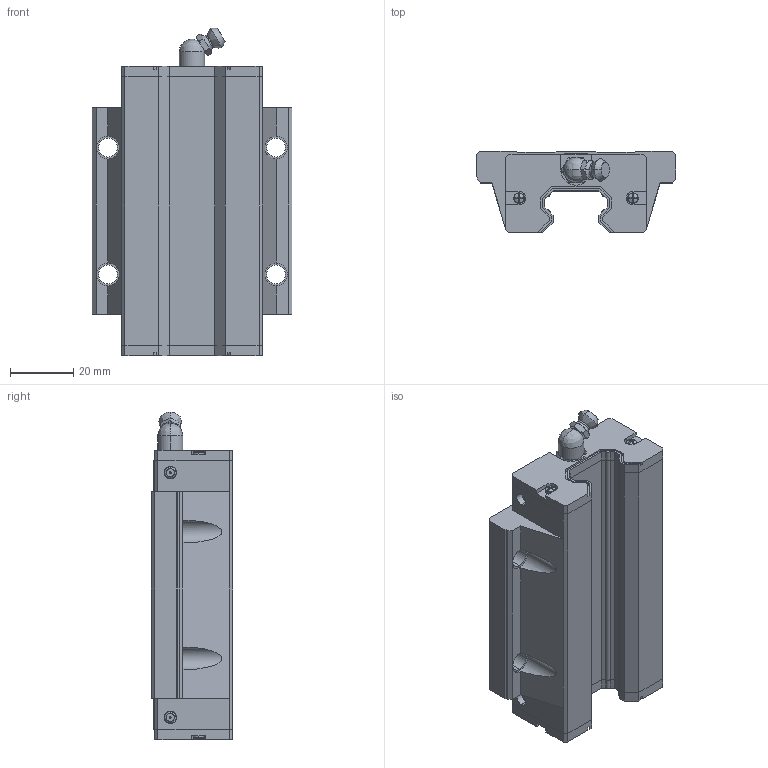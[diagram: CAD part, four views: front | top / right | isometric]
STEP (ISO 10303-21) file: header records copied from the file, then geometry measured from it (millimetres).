
FILE_DESCRIPTION (( 'STEP AP203' ), '1' );
FILE_NAME ('HGW20HC.STEP', '2021-10-25T04:48:37', ( '微软用户' ), ( '微软中国' ), 'SwSTEP 2.0', 'SolidWorks 2018', '' );
FILE_SCHEMA (( 'CONFIG_CONTROL_DESIGN' ));
Length unit declared in the file: millimetre
Products named in the file (1): HGW20HC
Bounding box: 63 x 25.7 x 103.4 mm (x, y, z)
Volume: 95851.8 mm3; surface area: 24356.7 mm2
Topology: 3 solids, 3 shells, 387 faces, 1032 edges, 671 vertices
Faces by surface type: plane 264, cylinder 74, bspline 26, cone 23
Entity records: 12872 total; most frequent: CARTESIAN_POINT 3293, ORIENTED_EDGE 2056, DIRECTION 1853, EDGE_CURVE 1028, VECTOR 715, LINE 715, VERTEX_POINT 671, AXIS2_PLACEMENT_3D 569
